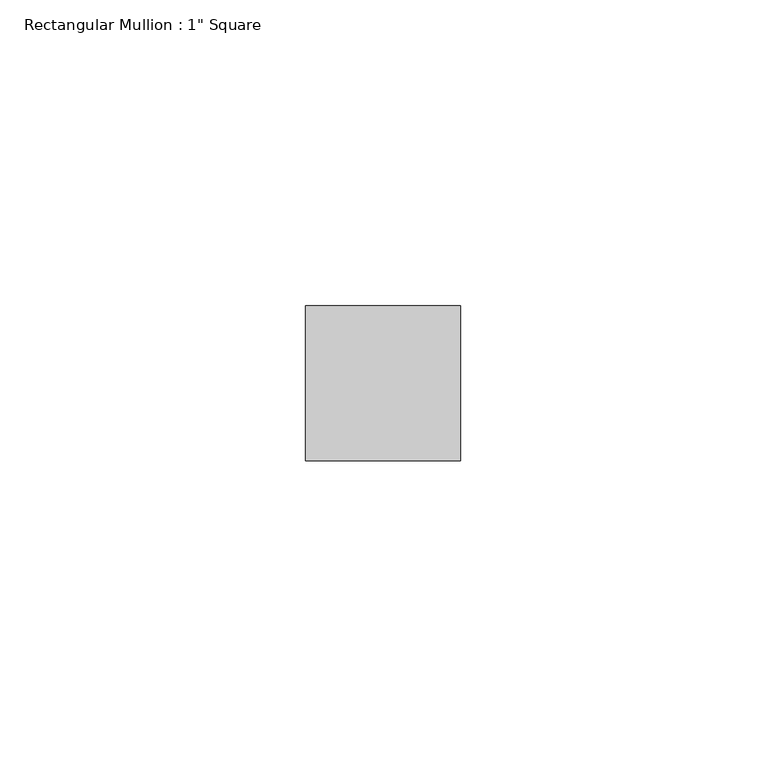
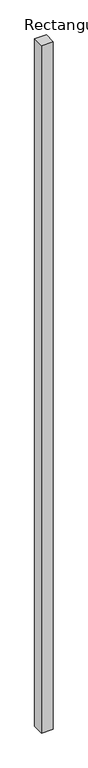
"""IFC4 building model written with IfcOpenShell, lengths in millimetres: member geometry."""

from ifc_helpers import new_model, si_unit, frame, origin, place, context, project, spatial, polyline, outline, extrude, source, transform, mapped, element, save


def member_54499f2f(model_context):
    return source(origin(), model_context, "Body", "SweptSolid", [
        extrude(outline(polyline([(12.7, 12.7), (12.7, -12.7), (-12.7, -12.7), (-12.7, 12.7), (12.7, 12.7)])), frame((0.0, 0.0, -1570.5326249), z_axis=(0.0, 0.0, 1.0), x_axis=(1.0, 0.0, 0.0)), (0.0, 0.0, 1.0), 1570.5326249),
    ])


if __name__ == "__main__":
    model = new_model("IFC4")
    model_context = context("Model", 3, world=origin())
    ifc_project = project(units=[si_unit("LENGTHUNIT", "METRE", prefix="MILLI")], contexts=[model_context])
    site = spatial("IfcSite", under=ifc_project)
    building = spatial("IfcBuilding", under=site)
    placement = place(None, origin())
    member_shape = member_54499f2f(model_context)
    element("IfcMember", 1, ObjectType="Rectangular Mullion : 1\" Square", at=placement, inside=building, context=model_context, shape_type="MappedRepresentation", body=[
        mapped(member_shape, transform((0.0, 0.0, 0.0), x_axis=(1.0, 0.0, 0.0), y_axis=(0.0, 1.0, 0.0), z_axis=(0.0, 0.0, 1.0))),
    ])
    save(model, "model.ifc")
